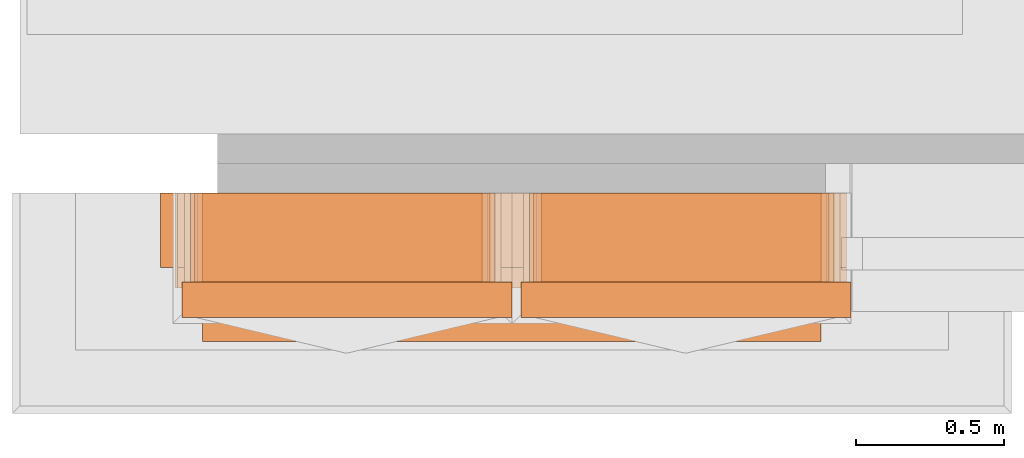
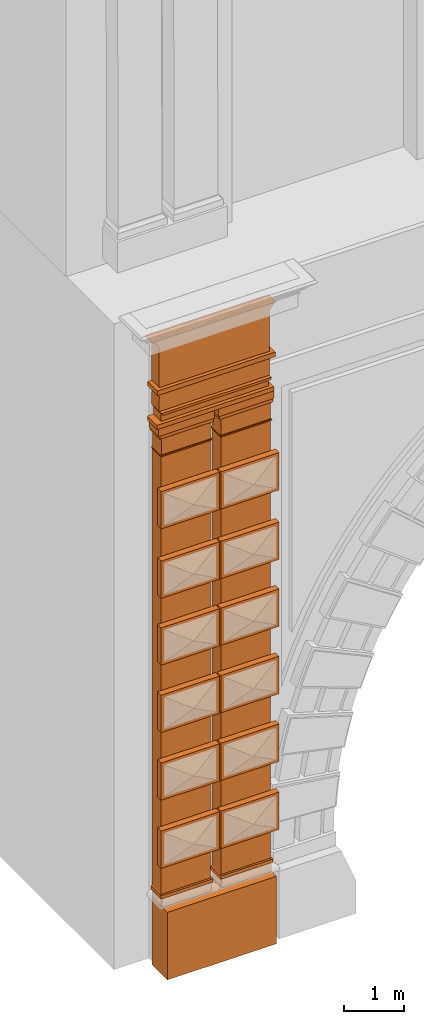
# One storey, part 3 of 44: 33 proxies.
"""IFC2X3 building model written with IfcOpenShell, lengths in metres."""

from ifc_helpers import new_model, entity, si_unit, converted_unit, derived_unit, direction, frame, frame_2d, origin, place, context, subcontext, project, spatial, polyline, circle_curve, parameter, trimmed, segment, composite_curve, rectangle, outline, extrude, material, element, save


model = new_model("IFC2X3")

# Units and contexts
model_context = context("Model", 3, precision=1e-05, world=origin(), true_north=direction((6.12303176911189e-17, 1.0)))
body_context = subcontext(model_context, "Body", "Model", "MODEL_VIEW")
ifc_project = project(units=[si_unit("LENGTHUNIT", "METRE"), si_unit("AREAUNIT", "SQUARE_METRE"), si_unit("VOLUMEUNIT", "CUBIC_METRE"), converted_unit("PLANEANGLEUNIT", "DEGREE", entity("IfcRatioMeasure", 0.0174532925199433), si_unit("PLANEANGLEUNIT", "RADIAN"), dimensions=[0, 0, 0, 0, 0, 0, 0]), si_unit("MASSUNIT", "GRAM", prefix="KILO"), derived_unit("MASSDENSITYUNIT", [(si_unit("MASSUNIT", "GRAM", prefix="KILO"), 1), (si_unit("LENGTHUNIT", "METRE"), -3)]), si_unit("TIMEUNIT", "SECOND"), si_unit("FREQUENCYUNIT", "HERTZ"), si_unit("THERMODYNAMICTEMPERATUREUNIT", "DEGREE_CELSIUS"), derived_unit("THERMALTRANSMITTANCEUNIT", [(si_unit("MASSUNIT", "GRAM", prefix="KILO"), 1), (si_unit("THERMODYNAMICTEMPERATUREUNIT", "KELVIN"), -1), (si_unit("TIMEUNIT", "SECOND"), -3)]), derived_unit("VOLUMETRICFLOWRATEUNIT", [(si_unit("LENGTHUNIT", "METRE"), 3), (si_unit("TIMEUNIT", "SECOND"), -1)]), si_unit("ELECTRICCURRENTUNIT", "AMPERE"), si_unit("ELECTRICVOLTAGEUNIT", "VOLT"), si_unit("POWERUNIT", "WATT"), si_unit("FORCEUNIT", "NEWTON", prefix="KILO"), si_unit("ILLUMINANCEUNIT", "LUX"), si_unit("LUMINOUSFLUXUNIT", "LUMEN"), si_unit("LUMINOUSINTENSITYUNIT", "CANDELA"), derived_unit("USERDEFINED", [(si_unit("MASSUNIT", "GRAM", prefix="KILO"), -1), (si_unit("LENGTHUNIT", "METRE"), -2), (si_unit("TIMEUNIT", "SECOND"), 3), (si_unit("LUMINOUSFLUXUNIT", "LUMEN"), 1)]), derived_unit("LINEARVELOCITYUNIT", [(si_unit("LENGTHUNIT", "METRE"), 1), (si_unit("TIMEUNIT", "SECOND"), -1)]), si_unit("PRESSUREUNIT", "PASCAL"), derived_unit("USERDEFINED", [(si_unit("LENGTHUNIT", "METRE"), -2), (si_unit("MASSUNIT", "GRAM", prefix="KILO"), 1), (si_unit("TIMEUNIT", "SECOND"), -2)])], contexts=[model_context])

# Site, building, storey
site_placement = place(None, origin())
site = spatial("IfcSite", under=ifc_project, at=site_placement, Name="Default", CompositionType="ELEMENT")
building_placement = place(site_placement, origin())
building = spatial("IfcBuilding", under=site, at=building_placement, CompositionType="ELEMENT")
storey_placement = place(building_placement, origin())
storey = spatial("IfcBuildingStorey", under=building, at=storey_placement, Name="Livello 1", CompositionType="ELEMENT", Elevation=0.0)

# Proxies
ifc_material_1 = material(Name="Piperno")
proxy_1_placement = place(storey_placement, frame((-11.5068131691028, -0.83446749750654, 0.0)))
element("IfcBuildingElementProxy", 1, at=proxy_1_placement, inside=storey, material=ifc_material_1, Name="Stratigrafia", context=body_context, shape_type="SweptSolid", body=[
    extrude(rectangle(XDim=1.36741802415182, YDim=0.5, at=frame_2d((0.0, 0.0), x_axis=(0.0, 1.0))), frame((0.0, 0.25, 0.683709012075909), z_axis=(1.0, 0.0, 0.0), x_axis=(0.0, 1.0, 0.0)), (0.0, 0.0, 1.0), 2.08827024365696),
])
ifc_material_2 = material(Name="Travertino")
proxy_2_placement = place(storey_placement, frame((-11.5336643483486, -0.67446749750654, 1.5459603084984)))
element("IfcBuildingElementProxy", 2, at=proxy_2_placement, inside=storey, material=ifc_material_2, Name="Stratigrafia", context=body_context, shape_type="SweptSolid", body=[
    extrude(rectangle(XDim=0.0671759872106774, YDim=0.34, at=frame_2d((6.93889390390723e-17, 0.0), x_axis=(0.0, 1.0))), frame((0.0, 0.17, 0.0335879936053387), z_axis=(1.0, 0.0, 0.0), x_axis=(0.0, 1.0, 0.0)), (0.0, 0.0, 1.0), 0.997732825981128),
])
proxy_3_placement = place(storey_placement, frame((-11.5352762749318, -0.63446749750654, 1.61154102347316)))
element("IfcBuildingElementProxy", 3, at=proxy_3_placement, inside=storey, material=ifc_material_2, Name="Stratigrafia", context=body_context, shape_type="SweptSolid", body=[
    extrude(outline(composite_curve([segment(polyline([(-0.414101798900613, -6.28964733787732), (0.583646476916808, -6.28964733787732)]), True, "CONTINUOUS"), segment(trimmed(circle_curve(frame_2d((0.588542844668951, -6.25788414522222), x_axis=(-0.15231522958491, -0.988331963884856)), 0.0321383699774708), [parameter(287.512604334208)], [parameter(359.997827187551)], True, "PARAMETER"), False, "CONTINUOUS"), segment(polyline([(0.556778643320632, -6.26277396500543), (0.556778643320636, 2.54723294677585)]), True, "CONTINUOUS"), segment(trimmed(circle_curve(frame_2d((0.606382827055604, 2.53651033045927), x_axis=(-0.898230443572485, 0.439524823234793)), 0.0507498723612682), [parameter(1.63175686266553e-08)], [parameter(13.8759811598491)], True, "PARAMETER"), False, "CONTINUOUS"), segment(trimmed(circle_curve(frame_2d((0.606815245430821, 2.53629873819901), x_axis=(-0.80534091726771, 0.592811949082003)), 0.0512312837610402), [parameter(359.999999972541)], [parameter(10.2832406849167)], True, "PARAMETER"), False, "CONTINUOUS"), segment(trimmed(circle_curve(frame_2d((0.607357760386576, 2.53589939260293), x_axis=(-0.664653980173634, 0.747151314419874)), 0.0519049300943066), [parameter(359.999999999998)], [parameter(11.9874072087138)], True, "PARAMETER"), False, "CONTINUOUS"), segment(polyline([(0.572858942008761, 2.57468022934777), (0.572858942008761, 2.5776591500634)]), True, "CONTINUOUS"), segment(polyline([(0.572858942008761, 2.5776591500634), (-0.405712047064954, 2.5776591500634)]), True, "CONTINUOUS"), segment(polyline([(-0.405712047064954, 2.5776591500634), (-0.405712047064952, 2.57639329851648)]), True, "CONTINUOUS"), segment(trimmed(circle_curve(frame_2d((-0.438883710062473, 2.53588550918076), x_axis=(0.664836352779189, 0.746989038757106)), 0.0523568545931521), [parameter(359.999999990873)], [parameter(2.35586561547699)], True, "PARAMETER"), False, "CONTINUOUS"), segment(trimmed(circle_curve(frame_2d((-0.438573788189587, 2.53621466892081), x_axis=(0.805292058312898, 0.592878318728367)), 0.0519049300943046), [parameter(359.999999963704)], [parameter(11.9826852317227)], True, "PARAMETER"), False, "CONTINUOUS"), segment(trimmed(circle_curve(frame_2d((-0.438033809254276, 2.53661745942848), x_axis=(0.898200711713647, 0.439585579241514)), 0.0512312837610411), [parameter(1.65649394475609e-08)], [parameter(10.2793651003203)], True, "PARAMETER"), False, "CONTINUOUS"), segment(trimmed(circle_curve(frame_2d((-0.437602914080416, 2.53683216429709), x_axis=(0.954143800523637, 0.299348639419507)), 0.0507498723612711), [parameter(3.64582148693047e-08)], [parameter(8.65508183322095)], True, "PARAMETER"), False, "CONTINUOUS"), segment(trimmed(circle_curve(frame_2d((-0.437301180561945, 2.53692835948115), x_axis=(0.987346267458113, 0.158579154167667)), 0.0504331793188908), [parameter(357.78212283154)], [parameter(8.29239101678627)], True, "PARAMETER"), False, "CONTINUOUS"), segment(polyline([(-0.387233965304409, 2.54299297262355), (-0.387233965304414, -5.67040610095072)]), True, "CONTINUOUS"), segment(polyline([(-0.387233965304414, -5.67040610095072), (-0.387233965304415, -6.26277396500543)]), True, "CONTINUOUS"), segment(trimmed(circle_curve(frame_2d((-0.418998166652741, -6.25788414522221), x_axis=(0.152315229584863, -0.988331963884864)), 0.032138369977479), [parameter(0.00217281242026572)], [parameter(72.4873956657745)], True, "PARAMETER"), False, "CONTINUOUS")], self_intersect=False)), frame((0.585241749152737, 0.0, 6.29124261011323), z_axis=(0.0, 1.0, 0.0), x_axis=(-1.0, 0.0, 0.0)), (0.0, 0.0, 1.0), 0.3),
])
for number, where in (
    (4, (-11.5763014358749, -0.75446749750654, 2.23237753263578)),
    (5, (-11.5763014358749, -0.75446749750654, 3.61089686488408)),
    (6, (-11.5763014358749, -0.75446749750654, 4.98055370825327)),
    (7, (-11.5763014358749, -0.75446749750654, 6.3449740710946)),
    (8, (-11.5763014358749, -0.75446749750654, 7.69668125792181)),
):
    element("IfcBuildingElementProxy", number, at=place(storey_placement, frame(where)), inside=storey, material=ifc_material_1, Name="Stratigrafia", context=body_context, shape_type="SweptSolid", body=[
        extrude(rectangle(XDim=0.756670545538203, YDim=0.12, at=frame_2d((0.0, 0.0), x_axis=(0.0, 1.0))), frame((0.0, 0.06, 0.378335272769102), z_axis=(1.0, 0.0, 0.0), x_axis=(0.0, 1.0, 0.0)), (0.0, 0.0, 1.0), 1.11440463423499),
    ])
proxy_4_placement = place(storey_placement, frame((-11.5763014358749, -0.75446749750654, 9.10319346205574)))
element("IfcBuildingElementProxy", 9, at=proxy_4_placement, inside=storey, material=ifc_material_1, Name="Stratigrafia", context=body_context, shape_type="SweptSolid", body=[
    extrude(rectangle(XDim=0.756670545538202, YDim=0.12, at=frame_2d((0.0, 5.55111512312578e-16), x_axis=(0.0, 1.0))), frame((0.0, 0.06, 0.378335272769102), z_axis=(1.0, 0.0, 0.0), x_axis=(0.0, 1.0, 0.0)), (0.0, 0.0, 1.0), 1.11440463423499),
])
proxy_5_placement = place(storey_placement, frame((-11.5207649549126, -0.654667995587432, 10.4804427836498)))
element("IfcBuildingElementProxy", 10, at=proxy_5_placement, inside=storey, material=ifc_material_2, Name="Stratigrafia", context=body_context, shape_type="SweptSolid", body=[
    extrude(rectangle(XDim=0.0231758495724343, YDim=0.320200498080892, at=frame_2d((-4.16333634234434e-17, 0.0), x_axis=(0.0, 1.0))), frame((0.0, 0.160100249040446, 0.0115879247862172), z_axis=(1.0, 0.0, 0.0), x_axis=(0.0, 1.0, 0.0)), (0.0, 0.0, 1.0), 0.976442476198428),
])
proxy_6_placement = place(storey_placement, frame((-11.5482288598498, -0.63446749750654, 10.5020233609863)))
element("IfcBuildingElementProxy", 11, at=proxy_6_placement, inside=storey, material=ifc_material_2, Name="Stratigrafia", context=body_context, shape_type="SweptSolid", body=[
    extrude(outline(composite_curve([segment(trimmed(circle_curve(frame_2d((-0.191302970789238, 0.529310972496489), x_axis=(-0.966047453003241, -0.258364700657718)), 0.0603691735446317), [parameter(2.54444374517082e-13)], [parameter(61.0495077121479)], True, "PARAMETER"), False, "CONTINUOUS"), segment(polyline([(-0.24962245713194, 0.513713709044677), (-0.251438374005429, -0.512827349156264)]), True, "CONTINUOUS"), segment(trimmed(circle_curve(frame_2d((-0.193174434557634, -0.528630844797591), x_axis=(-0.965127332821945, 0.261780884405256)), 0.0603691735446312), [parameter(298.950492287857)], [parameter(8.65110873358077e-13)], True, "PARAMETER"), False, "CONTINUOUS"), segment(polyline([(-0.20754864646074, -0.469997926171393), (0.0578943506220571, -0.470937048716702)]), True, "CONTINUOUS"), segment(trimmed(circle_curve(frame_2d((0.0498086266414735, -0.520717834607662), x_axis=(0.160325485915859, 0.987064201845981)), 0.0504331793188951), [parameter(351.707608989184)], [parameter(360.0)], True, "PARAMETER"), False, "CONTINUOUS"), segment(trimmed(circle_curve(frame_2d((0.0497118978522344, -0.521019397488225), x_axis=(0.301036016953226, 0.953612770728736)), 0.0507498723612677), [parameter(351.344918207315)], [parameter(359.999999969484)], True, "PARAMETER"), False, "CONTINUOUS"), segment(trimmed(circle_curve(frame_2d((0.0494964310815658, -0.52144991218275), x_axis=(0.441173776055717, 0.897421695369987)), 0.0512312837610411), [parameter(349.720634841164)], [parameter(2.35897924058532e-08)], True, "PARAMETER"), False, "CONTINUOUS"), segment(trimmed(circle_curve(frame_2d((0.0490926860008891, -0.521989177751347), x_axis=(0.594301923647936, 0.804242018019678)), 0.0519049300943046), [parameter(348.017314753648)], [parameter(359.999999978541)], True, "PARAMETER"), False, "CONTINUOUS"), segment(trimmed(circle_curve(frame_2d((0.0487629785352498, -0.522298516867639), x_axis=(0.748163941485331, 0.66351391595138)), 0.0523568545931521), [parameter(357.687391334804)], [parameter(359.99999999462)], True, "PARAMETER"), False, "CONTINUOUS"), segment(polyline([(0.089304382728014, -0.48916794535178), (0.0910344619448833, 0.48884893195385)]), True, "CONTINUOUS"), segment(trimmed(circle_curve(frame_2d((0.0506105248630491, 0.522122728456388), x_axis=(0.745811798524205, -0.666156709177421)), 0.0523568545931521), [parameter(5.38012452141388e-09)], [parameter(2.31260866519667)], True, "PARAMETER"), False, "CONTINUOUS"), segment(trimmed(circle_curve(frame_2d((0.0509391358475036, 0.521812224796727), x_axis=(0.591452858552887, -0.806339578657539)), 0.0519049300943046), [parameter(359.999999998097)], [parameter(11.9826852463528)], True, "PARAMETER"), False, "CONTINUOUS"), segment(trimmed(circle_curve(frame_2d((0.0513409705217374, 0.521271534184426), x_axis=(0.437996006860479, -0.898976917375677)), 0.0512312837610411), [parameter(6.6122968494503e-09)], [parameter(10.2793651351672)], True, "PARAMETER"), False, "CONTINUOUS"), segment(trimmed(circle_curve(frame_2d((0.0515549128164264, 0.5208402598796), x_axis=(0.297660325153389, -0.9546718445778)), 0.0507498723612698), [parameter(3.62487053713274e-08)], [parameter(8.65508182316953)], True, "PARAMETER"), False, "CONTINUOUS"), segment(trimmed(circle_curve(frame_2d((0.0516505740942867, 0.520538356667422), x_axis=(0.156832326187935, -0.987625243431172)), 0.0504331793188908), [parameter(2.54444374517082e-13)], [parameter(8.29239101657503)], True, "PARAMETER"), False, "CONTINUOUS"), segment(polyline([(0.0595601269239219, 0.470729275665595), (-0.205884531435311, 0.470729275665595)]), True, "CONTINUOUS")], self_intersect=False)), frame((0.514866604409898, 0.0, 0.0917648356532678), z_axis=(0.0, -1.0, 0.0), x_axis=(0.0017689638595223, 0.0, -0.999998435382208)), (0.0, 0.0, -1.0), 0.3),
])
proxy_7_placement = place(storey_placement, frame((-11.5465919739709, -0.654667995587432, 10.8443190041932)))
element("IfcBuildingElementProxy", 12, at=proxy_7_placement, inside=storey, material=ifc_material_2, Name="Stratigrafia", context=body_context, shape_type="SweptSolid", body=[
    extrude(rectangle(XDim=0.0638603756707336, YDim=0.320200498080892, at=frame_2d((-4.16333634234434e-17, 0.0), x_axis=(0.0, 1.0))), frame((0.0, 0.160100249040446, 0.0319301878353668), z_axis=(1.0, 0.0, 0.0), x_axis=(0.0, 1.0, 0.0)), (0.0, 0.0, 1.0), 1.02650105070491),
])
proxy_8_placement = place(storey_placement, frame((-11.5674296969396, -0.654667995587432, 10.908179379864)))
element("IfcBuildingElementProxy", 13, at=proxy_8_placement, inside=storey, material=ifc_material_2, Name="Stratigrafia", context=body_context, shape_type="SweptSolid", body=[
    extrude(rectangle(XDim=0.153075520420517, YDim=0.320200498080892, at=frame_2d((-4.16333634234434e-17, 0.0), x_axis=(0.0, 1.0))), frame((0.0, 0.160100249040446, 0.0765377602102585), z_axis=(1.0, 0.0, 0.0), x_axis=(0.0, 1.0, 0.0)), (0.0, 0.0, 1.0), 1.06834077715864),
])
proxy_9_placement = place(storey_placement, frame((-11.6000440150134, -0.654667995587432, 11.0612549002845)))
element("IfcBuildingElementProxy", 14, at=proxy_9_placement, inside=storey, material=ifc_material_2, Name="Stratigrafia", context=body_context, shape_type="SweptSolid", body=[
    extrude(rectangle(XDim=0.0847716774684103, YDim=0.320200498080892, at=frame_2d((-6.93889390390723e-17, 0.0), x_axis=(0.0, 1.0))), frame((0.0, 0.160100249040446, 0.0423858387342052), z_axis=(1.0, 0.0, 0.0), x_axis=(0.0, 1.0, 0.0)), (0.0, 0.0, 1.0), 2.24355427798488),
])
proxy_10_placement = place(storey_placement, frame((-10.3894067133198, -0.67446749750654, 1.5459603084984)))
element("IfcBuildingElementProxy", 15, at=proxy_10_placement, inside=storey, material=ifc_material_2, Name="Stratigrafia", context=body_context, shape_type="SweptSolid", body=[
    extrude(rectangle(XDim=0.0671759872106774, YDim=0.34, at=frame_2d((6.93889390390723e-17, 0.0), x_axis=(0.0, 1.0))), frame((0.0, 0.17, 0.0335879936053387), z_axis=(1.0, 0.0, 0.0), x_axis=(0.0, 1.0, 0.0)), (0.0, 0.0, 1.0), 0.997732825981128),
])
proxy_11_placement = place(storey_placement, frame((-10.391018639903, -0.63446749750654, 1.61154102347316)))
element("IfcBuildingElementProxy", 16, at=proxy_11_placement, inside=storey, material=ifc_material_2, Name="Stratigrafia", context=body_context, shape_type="SweptSolid", body=[
    extrude(outline(composite_curve([segment(polyline([(-0.414101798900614, -6.28964733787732), (0.583646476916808, -6.28964733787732)]), True, "CONTINUOUS"), segment(trimmed(circle_curve(frame_2d((0.588542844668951, -6.25788414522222), x_axis=(-0.15231522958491, -0.988331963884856)), 0.0321383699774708), [parameter(287.512604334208)], [parameter(359.997827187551)], True, "PARAMETER"), False, "CONTINUOUS"), segment(polyline([(0.556778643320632, -6.26277396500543), (0.556778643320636, 2.54723294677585)]), True, "CONTINUOUS"), segment(trimmed(circle_curve(frame_2d((0.606382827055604, 2.53651033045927), x_axis=(-0.898230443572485, 0.439524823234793)), 0.0507498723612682), [parameter(1.63175686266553e-08)], [parameter(13.8759811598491)], True, "PARAMETER"), False, "CONTINUOUS"), segment(trimmed(circle_curve(frame_2d((0.606815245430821, 2.53629873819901), x_axis=(-0.80534091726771, 0.592811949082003)), 0.0512312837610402), [parameter(359.999999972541)], [parameter(10.2832406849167)], True, "PARAMETER"), False, "CONTINUOUS"), segment(trimmed(circle_curve(frame_2d((0.607357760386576, 2.53589939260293), x_axis=(-0.664653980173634, 0.747151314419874)), 0.0519049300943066), [parameter(359.999999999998)], [parameter(11.9874072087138)], True, "PARAMETER"), False, "CONTINUOUS"), segment(polyline([(0.572858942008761, 2.57468022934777), (0.572858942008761, 2.5776591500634)]), True, "CONTINUOUS"), segment(polyline([(0.572858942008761, 2.5776591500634), (-0.405712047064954, 2.5776591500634)]), True, "CONTINUOUS"), segment(polyline([(-0.405712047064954, 2.5776591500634), (-0.405712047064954, 2.57639329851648)]), True, "CONTINUOUS"), segment(trimmed(circle_curve(frame_2d((-0.438883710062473, 2.53588550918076), x_axis=(0.664836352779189, 0.746989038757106)), 0.0523568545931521), [parameter(359.999999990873)], [parameter(2.35586561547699)], True, "PARAMETER"), False, "CONTINUOUS"), segment(trimmed(circle_curve(frame_2d((-0.438573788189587, 2.53621466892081), x_axis=(0.805292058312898, 0.592878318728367)), 0.0519049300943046), [parameter(359.999999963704)], [parameter(11.9826852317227)], True, "PARAMETER"), False, "CONTINUOUS"), segment(trimmed(circle_curve(frame_2d((-0.438033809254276, 2.53661745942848), x_axis=(0.898200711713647, 0.439585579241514)), 0.0512312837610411), [parameter(1.65649394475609e-08)], [parameter(10.2793651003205)], True, "PARAMETER"), False, "CONTINUOUS"), segment(trimmed(circle_curve(frame_2d((-0.437602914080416, 2.53683216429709), x_axis=(0.954143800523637, 0.299348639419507)), 0.0507498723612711), [parameter(3.64581639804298e-08)], [parameter(8.65508183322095)], True, "PARAMETER"), False, "CONTINUOUS"), segment(trimmed(circle_curve(frame_2d((-0.437301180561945, 2.53692835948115), x_axis=(0.987346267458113, 0.158579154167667)), 0.0504331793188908), [parameter(357.78212283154)], [parameter(8.29239101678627)], True, "PARAMETER"), False, "CONTINUOUS"), segment(polyline([(-0.387233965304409, 2.54299297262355), (-0.387233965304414, -5.67040610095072)]), True, "CONTINUOUS"), segment(polyline([(-0.387233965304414, -5.67040610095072), (-0.387233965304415, -6.26277396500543)]), True, "CONTINUOUS"), segment(trimmed(circle_curve(frame_2d((-0.418998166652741, -6.25788414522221), x_axis=(0.152315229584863, -0.988331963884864)), 0.032138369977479), [parameter(0.00217281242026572)], [parameter(72.4873956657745)], True, "PARAMETER"), False, "CONTINUOUS")], self_intersect=False)), frame((0.585241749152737, 0.0, 6.29124261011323), z_axis=(0.0, 1.0, 0.0), x_axis=(-1.0, 0.0, 0.0)), (0.0, 0.0, 1.0), 0.3),
])
for number, where in (
    (17, (-10.4320438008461, -0.75446749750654, 2.23237753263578)),
    (18, (-10.4320438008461, -0.75446749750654, 3.61089686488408)),
    (19, (-10.4320438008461, -0.75446749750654, 4.98055370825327)),
    (20, (-10.4320438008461, -0.75446749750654, 6.3449740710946)),
    (21, (-10.4320438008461, -0.75446749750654, 7.69668125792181)),
):
    element("IfcBuildingElementProxy", number, at=place(storey_placement, frame(where)), inside=storey, material=ifc_material_1, Name="Stratigrafia", context=body_context, shape_type="SweptSolid", body=[
        extrude(rectangle(XDim=0.756670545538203, YDim=0.12, at=frame_2d((0.0, 0.0), x_axis=(0.0, 1.0))), frame((0.0, 0.06, 0.378335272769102), z_axis=(1.0, 0.0, 0.0), x_axis=(0.0, 1.0, 0.0)), (0.0, 0.0, 1.0), 1.11440463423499),
    ])
proxy_12_placement = place(storey_placement, frame((-10.4320438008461, -0.75446749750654, 9.10319346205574)))
element("IfcBuildingElementProxy", 22, at=proxy_12_placement, inside=storey, material=ifc_material_1, Name="Stratigrafia", context=body_context, shape_type="SweptSolid", body=[
    extrude(rectangle(XDim=0.756670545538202, YDim=0.12, at=frame_2d((0.0, 5.55111512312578e-16), x_axis=(0.0, 1.0))), frame((0.0, 0.06, 0.378335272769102), z_axis=(1.0, 0.0, 0.0), x_axis=(0.0, 1.0, 0.0)), (0.0, 0.0, 1.0), 1.11440463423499),
])
proxy_13_placement = place(storey_placement, frame((-10.3765073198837, -0.654667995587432, 10.4804427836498)))
element("IfcBuildingElementProxy", 23, at=proxy_13_placement, inside=storey, material=ifc_material_2, Name="Stratigrafia", context=body_context, shape_type="SweptSolid", body=[
    extrude(rectangle(XDim=0.0231758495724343, YDim=0.320200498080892, at=frame_2d((-4.16333634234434e-17, 0.0), x_axis=(0.0, 1.0))), frame((0.0, 0.160100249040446, 0.0115879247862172), z_axis=(1.0, 0.0, 0.0), x_axis=(0.0, 1.0, 0.0)), (0.0, 0.0, 1.0), 0.976442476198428),
])
proxy_14_placement = place(storey_placement, frame((-10.403971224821, -0.63446749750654, 10.5020233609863)))
element("IfcBuildingElementProxy", 24, at=proxy_14_placement, inside=storey, material=ifc_material_2, Name="Stratigrafia", context=body_context, shape_type="SweptSolid", body=[
    extrude(outline(composite_curve([segment(trimmed(circle_curve(frame_2d((-0.191302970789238, 0.529310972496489), x_axis=(-0.966047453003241, -0.258364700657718)), 0.0603691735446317), [parameter(2.03555499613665e-13)], [parameter(61.0495077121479)], True, "PARAMETER"), False, "CONTINUOUS"), segment(polyline([(-0.24962245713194, 0.513713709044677), (-0.251438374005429, -0.512827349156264)]), True, "CONTINUOUS"), segment(trimmed(circle_curve(frame_2d((-0.193174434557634, -0.528630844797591), x_axis=(-0.965127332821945, 0.261780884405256)), 0.0603691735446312), [parameter(298.950492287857)], [parameter(8.65110873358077e-13)], True, "PARAMETER"), False, "CONTINUOUS"), segment(polyline([(-0.20754864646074, -0.469997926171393), (0.0578943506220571, -0.470937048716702)]), True, "CONTINUOUS"), segment(trimmed(circle_curve(frame_2d((0.0498086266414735, -0.520717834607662), x_axis=(0.160325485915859, 0.987064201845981)), 0.0504331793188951), [parameter(351.707608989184)], [parameter(360.0)], True, "PARAMETER"), False, "CONTINUOUS"), segment(trimmed(circle_curve(frame_2d((0.0497118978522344, -0.521019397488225), x_axis=(0.301036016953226, 0.953612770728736)), 0.0507498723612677), [parameter(351.344918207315)], [parameter(359.999999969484)], True, "PARAMETER"), False, "CONTINUOUS"), segment(trimmed(circle_curve(frame_2d((0.0494964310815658, -0.52144991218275), x_axis=(0.441173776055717, 0.897421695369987)), 0.0512312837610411), [parameter(349.720634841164)], [parameter(2.35897924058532e-08)], True, "PARAMETER"), False, "CONTINUOUS"), segment(trimmed(circle_curve(frame_2d((0.0490926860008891, -0.521989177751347), x_axis=(0.594301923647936, 0.804242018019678)), 0.0519049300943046), [parameter(348.017314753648)], [parameter(359.999999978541)], True, "PARAMETER"), False, "CONTINUOUS"), segment(trimmed(circle_curve(frame_2d((0.0487629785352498, -0.522298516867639), x_axis=(0.748163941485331, 0.663513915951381)), 0.0523568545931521), [parameter(357.687391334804)], [parameter(359.99999999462)], True, "PARAMETER"), False, "CONTINUOUS"), segment(polyline([(0.089304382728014, -0.48916794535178), (0.0910344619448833, 0.48884893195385)]), True, "CONTINUOUS"), segment(trimmed(circle_curve(frame_2d((0.0506105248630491, 0.522122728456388), x_axis=(0.745811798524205, -0.666156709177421)), 0.0523568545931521), [parameter(5.38017541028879e-09)], [parameter(2.31260866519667)], True, "PARAMETER"), False, "CONTINUOUS"), segment(trimmed(circle_curve(frame_2d((0.0509391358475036, 0.521812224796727), x_axis=(0.591452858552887, -0.806339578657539)), 0.0519049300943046), [parameter(359.999999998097)], [parameter(11.9826852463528)], True, "PARAMETER"), False, "CONTINUOUS"), segment(trimmed(circle_curve(frame_2d((0.0513409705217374, 0.521271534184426), x_axis=(0.437996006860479, -0.898976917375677)), 0.0512312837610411), [parameter(6.6122968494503e-09)], [parameter(10.2793651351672)], True, "PARAMETER"), False, "CONTINUOUS"), segment(trimmed(circle_curve(frame_2d((0.0515549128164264, 0.5208402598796), x_axis=(0.297660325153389, -0.9546718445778)), 0.0507498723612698), [parameter(3.62487053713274e-08)], [parameter(8.65508182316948)], True, "PARAMETER"), False, "CONTINUOUS"), segment(trimmed(circle_curve(frame_2d((0.0516505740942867, 0.520538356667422), x_axis=(0.156832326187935, -0.987625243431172)), 0.0504331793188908), [parameter(2.54444374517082e-13)], [parameter(8.29239101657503)], True, "PARAMETER"), False, "CONTINUOUS"), segment(polyline([(0.0595601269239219, 0.470729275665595), (-0.205884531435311, 0.470729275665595)]), True, "CONTINUOUS")], self_intersect=False)), frame((0.514866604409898, 0.0, 0.0917648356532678), z_axis=(0.0, -1.0, 0.0), x_axis=(0.0017689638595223, 0.0, -0.999998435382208)), (0.0, 0.0, -1.0), 0.3),
])
proxy_15_placement = place(storey_placement, frame((-10.4023343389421, -0.654667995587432, 10.8443190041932)))
element("IfcBuildingElementProxy", 25, at=proxy_15_placement, inside=storey, material=ifc_material_2, Name="Stratigrafia", context=body_context, shape_type="SweptSolid", body=[
    extrude(rectangle(XDim=0.0638603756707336, YDim=0.320200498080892, at=frame_2d((-4.16333634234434e-17, 0.0), x_axis=(0.0, 1.0))), frame((0.0, 0.160100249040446, 0.0319301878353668), z_axis=(1.0, 0.0, 0.0), x_axis=(0.0, 1.0, 0.0)), (0.0, 0.0, 1.0), 1.02650105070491),
])
proxy_16_placement = place(storey_placement, frame((-10.4231720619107, -0.654667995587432, 10.908179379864)))
element("IfcBuildingElementProxy", 26, at=proxy_16_placement, inside=storey, material=ifc_material_2, Name="Stratigrafia", context=body_context, shape_type="SweptSolid", body=[
    extrude(rectangle(XDim=0.153075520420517, YDim=0.320200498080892, at=frame_2d((-4.16333634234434e-17, 0.0), x_axis=(0.0, 1.0))), frame((0.0, 0.160100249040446, 0.0765377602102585), z_axis=(1.0, 0.0, 0.0), x_axis=(0.0, 1.0, 0.0)), (0.0, 0.0, 1.0), 1.06834077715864),
])
proxy_17_placement = place(storey_placement, frame((-11.4836211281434, -0.58446749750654, 11.1460265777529)))
element("IfcBuildingElementProxy", 27, at=proxy_17_placement, inside=storey, material=ifc_material_2, Name="Stratigrafia", context=body_context, shape_type="SweptSolid", body=[
    extrude(rectangle(XDim=0.160779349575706, YDim=0.25, at=frame_2d((0.0, 0.0), x_axis=(0.0, 1.0))), frame((0.0, 0.125, 0.0803896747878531), z_axis=(1.0, 0.0, 0.0), x_axis=(0.0, 1.0, 0.0)), (0.0, 0.0, 1.0), 2.06320762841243),
])
proxy_18_placement = place(storey_placement, frame((-11.5157847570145, -0.654667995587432, 11.3068059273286)))
element("IfcBuildingElementProxy", 28, at=proxy_18_placement, inside=storey, material=ifc_material_2, Name="Stratigrafia", context=body_context, shape_type="SweptSolid", body=[
    extrude(outline(polyline([(-1.05875861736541, -0.0237869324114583), (1.04874096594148, -0.0237869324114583), (1.03661263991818, 0.0237869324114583), (-1.02659498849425, 0.0237869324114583), (-1.05875861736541, -0.0237869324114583)])), frame((1.05875861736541, 0.0, 0.0237869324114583), z_axis=(0.0, 1.0, 0.0), x_axis=(1.0, 0.0, 0.0)), (0.0, 0.0, 1.0), 0.320200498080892),
])
proxy_19_placement = place(storey_placement, frame((-11.593169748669, -0.58446749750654, 11.3543797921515)))
element("IfcBuildingElementProxy", 29, at=proxy_19_placement, inside=storey, material=ifc_material_1, Name="Stratigrafia", context=body_context, shape_type="SweptSolid", body=[
    extrude(outline(composite_curve([segment(polyline([(-0.463239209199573, 0.946973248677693), (-0.677501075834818, 0.834238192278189)]), True, "CONTINUOUS"), segment(polyline([(-0.677501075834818, 0.834238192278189), (0.303825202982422, -1.03084980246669)]), True, "CONTINUOUS"), segment(polyline([(0.303825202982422, -1.03084980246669), (0.518087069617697, -0.918114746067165)]), True, "CONTINUOUS"), segment(trimmed(circle_curve(frame_2d((0.603403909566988, -1.03500938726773), x_axis=(0.566367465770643, 0.824152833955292)), 0.144718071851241), [parameter(7.4806646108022e-12)], [parameter(70.6215529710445)], True, "PARAMETER"), False, "CONTINUOUS"), segment(polyline([(0.685367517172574, -0.915739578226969), (-0.366539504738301, 1.08349268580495)]), True, "CONTINUOUS"), segment(trimmed(circle_curve(frame_2d((-0.511257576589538, 1.08349268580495), x_axis=(1.0, 0.0)), 0.144718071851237), [parameter(289.378447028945)], [parameter(360.0)], True, "PARAMETER"), False, "CONTINUOUS")], self_intersect=False)), frame((1.13113478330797, 0.0, 0.211121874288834), z_axis=(0.0, -1.0, 0.0), x_axis=(0.465635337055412, 0.0, 0.884976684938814)), (0.0, 0.0, -1.0), 0.25),
])
proxy_20_placement = place(storey_placement, frame((-11.5915744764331, -0.654667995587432, 11.7456352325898)))
element("IfcBuildingElementProxy", 30, at=proxy_20_placement, inside=storey, material=ifc_material_1, Name="Stratigrafia", context=body_context, shape_type="SweptSolid", body=[
    extrude(rectangle(XDim=0.0932025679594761, YDim=0.320200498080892, at=frame_2d((-6.93889390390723e-17, 0.0), x_axis=(0.0, 1.0))), frame((0.0, 0.160100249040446, 0.046601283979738), z_axis=(1.0, 0.0, 0.0), x_axis=(0.0, 1.0, 0.0)), (0.0, 0.0, 1.0), 2.25907902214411),
])
proxy_21_placement = place(storey_placement, frame((-11.649578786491, -0.58446749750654, 11.8388378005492)))
element("IfcBuildingElementProxy", 31, at=proxy_21_placement, inside=storey, material=ifc_material_2, Name="Stratigrafia", context=body_context, shape_type="SweptSolid", body=[
    extrude(outline(composite_curve([segment(polyline([(-0.272440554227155, 1.03721328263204), (-0.973408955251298, 0.70410603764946)]), True, "CONTINUOUS"), segment(polyline([(-0.973408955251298, 0.70410603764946), (-0.0688456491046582, -1.19939592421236)]), True, "CONTINUOUS"), segment(polyline([(-0.0688456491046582, -1.19939592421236), (0.632122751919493, -0.866288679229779)]), True, "CONTINUOUS"), segment(trimmed(circle_curve(frame_2d((0.701241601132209, -1.09197421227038), x_axis=(0.63155477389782, 0.775331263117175)), 0.236032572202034), [parameter(5.39422073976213e-12)], [parameter(56.1927478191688)], True, "PARAMETER"), False, "CONTINUOUS"), segment(polyline([(0.850309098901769, -0.908970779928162), (-0.167736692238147, 1.2333360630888)]), True, "CONTINUOUS"), segment(trimmed(circle_curve(frame_2d((-0.403769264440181, 1.2333360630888), x_axis=(1.0, 0.0)), 0.236032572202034), [parameter(303.807252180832)], [parameter(2.54444374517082e-13)], True, "PARAMETER"), False, "CONTINUOUS")], self_intersect=False)), frame((1.18754382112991, 0.0, 0.576976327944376), z_axis=(0.0, -1.0, 0.0), x_axis=(0.429211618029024, 0.0, 0.903203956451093)), (0.0, 0.0, -1.0), 0.25),
])
for number, where in (
    (32, (-11.5068131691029, -0.67446749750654, 1.36741802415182)),
    (33, (-10.3625555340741, -0.67446749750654, 1.36741802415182)),
):
    element("IfcBuildingElementProxy", number, at=place(storey_placement, frame(where)), inside=storey, material=ifc_material_2, Name="Stratigrafia", context=body_context, shape_type="SweptSolid", body=[
        extrude(rectangle(XDim=0.178542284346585, YDim=0.34, at=frame_2d((6.93889390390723e-17, 0.0), x_axis=(0.0, 1.0))), frame((0.0, 0.17, 0.0892711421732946), z_axis=(1.0, 0.0, 0.0), x_axis=(0.0, 1.0, 0.0)), (0.0, 0.0, 1.0), 0.944012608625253),
    ])

save(model, "model.ifc")
